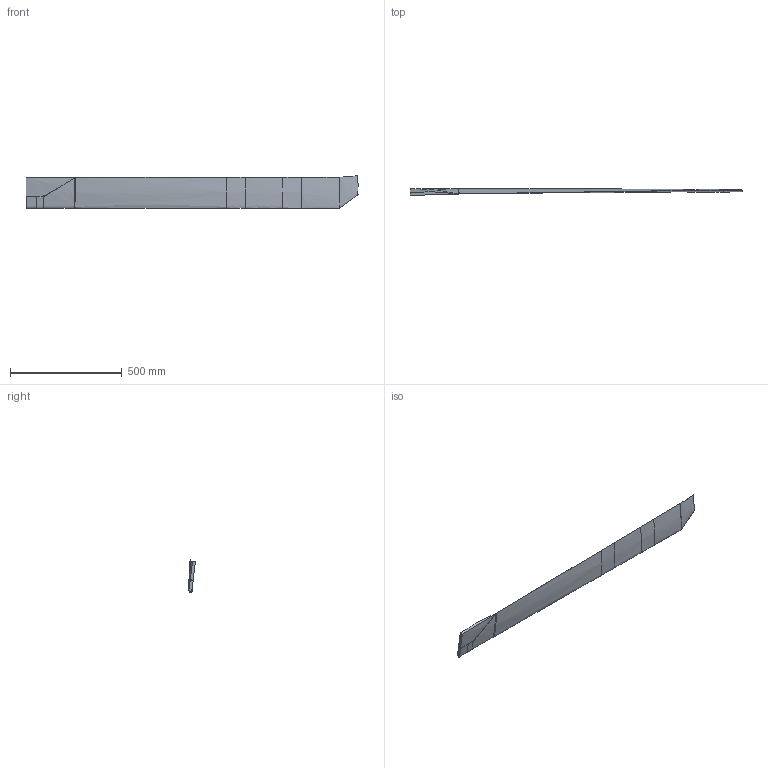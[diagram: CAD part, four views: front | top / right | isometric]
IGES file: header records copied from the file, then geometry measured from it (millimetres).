
Global section: file name: D:\PSP-Rotor\PSP_BLADE_OML_AS_DESIGNED.igs; native system: Rhinoceros ( Aug 10 2015 ); preprocessor: Trout Lake IGES 012 Aug 10 2015; author: Austin Overmeyer; organization: NASA/ARMY ADD; date: 160414.195241; units: inch
Bounding box: 1485.9 x 30.9 x 145.35 mm (x, y, z)
Surface area: 420074.4 mm2 (no closed solid volume)
Topology: 0 solids, 0 shells, 47 faces, 394 edges, 392 vertices
Faces by surface type: bspline 47
